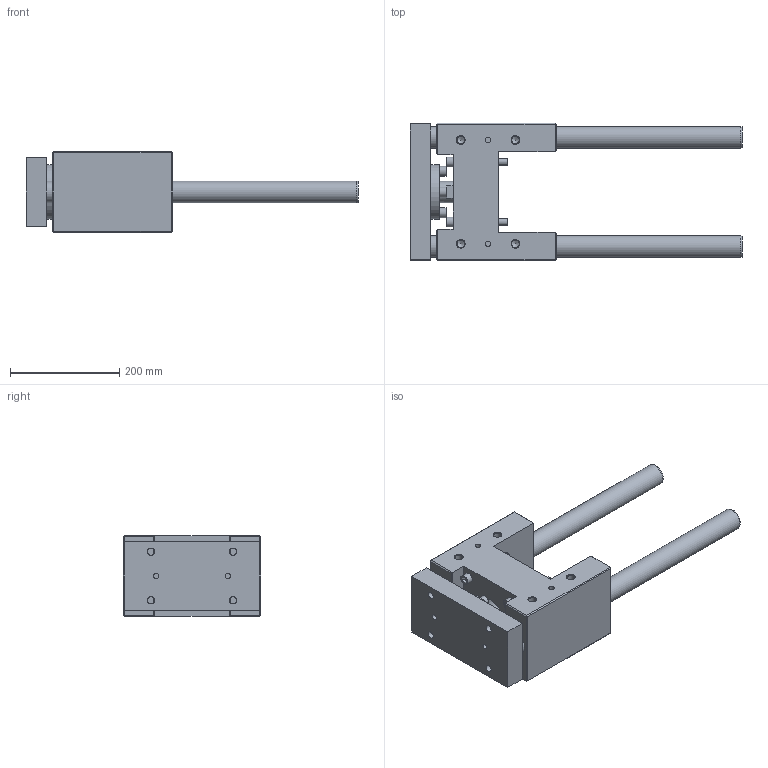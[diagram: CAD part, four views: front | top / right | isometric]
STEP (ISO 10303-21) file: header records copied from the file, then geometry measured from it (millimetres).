
FILE_DESCRIPTION( ( 'STEP AP214' ), '1' );
FILE_NAME( 'U:/Etudes/Top Solid/BIBLIO 3D AVM/TOP/PNEUMATIQUE/GUIDAGES/Type 32 (en H)/S_Lourde/320S6130.step', '2005-05-27T09:31:33', ( ' ' ), ( ' ' ), 'XStep 1.0', ' ', ' ' );
FILE_SCHEMA( ( 'automotive_design' ) );
Length unit declared in the file: metre
Products named in the file (2): 1; 2
Bounding box: 608 x 252 x 148 mm (x, y, z)
Volume: 7137795.2 mm3; surface area: 618819.3 mm2
Topology: 2 solids, 7 shells, 238 faces, 524 edges, 339 vertices
Faces by surface type: plane 149, cylinder 68, cone 21
Full cylindrical faces by diameter (mm): 10 x4, 10.106 x4, 12 x16, 13 x12, 13.835 x8, 18 x8, 20 x4, 24.835 x1, 39 x1, 40 x4, 42 x1, 57 x1, 60 x2, 65 x1, 100 x1
Entity records: 7905 total; most frequent: CARTESIAN_POINT 1198, DIRECTION 996, ORIENTED_EDGE 784, EDGE_CURVE 392, EDGE_LOOP 390, AXIS2_PLACEMENT_3D 372, FACE_OUTER_BOUND 306, VERTEX_POINT 302
